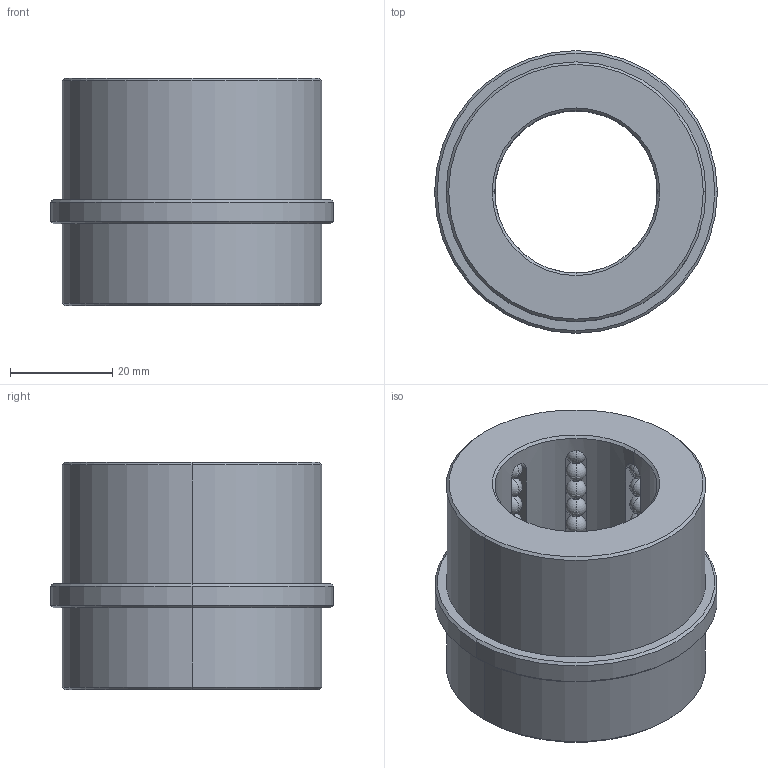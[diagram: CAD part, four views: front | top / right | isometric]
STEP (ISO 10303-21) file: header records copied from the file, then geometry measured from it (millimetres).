
FILE_DESCRIPTION((''),'2;1');
FILE_NAME('BGEB1250','2018-01-06T',('MANU'),(''),'PRO/ENGINEER BY PARAMETRIC TECHNOLOGY CORPORATION, 2012130','PRO/ENGINEER BY PARAMETRIC TECHNOLOGY CORPORATION, 2012130','');
FILE_SCHEMA(('CONFIG_CONTROL_DESIGN'));
Length unit declared in the file: millimetre
Products named in the file (1): BGEB1250
Bounding box: 55.3 x 55.3 x 44.45 mm (x, y, z)
Volume: 54294.8 mm3; surface area: 20733 mm2
Topology: 73 solids, 73 shells, 208 faces, 582 edges, 240 vertices
Faces by surface type: sphere 144, plane 28, cylinder 24, cone 12
Entity records: 4856 total; most frequent: CARTESIAN_POINT 1038, DIRECTION 878, ORIENTED_EDGE 588, AXIS2_PLACEMENT_3D 396, EDGE_CURVE 294, VERTEX_POINT 240, EDGE_LOOP 218, FACE_OUTER_BOUND 208
